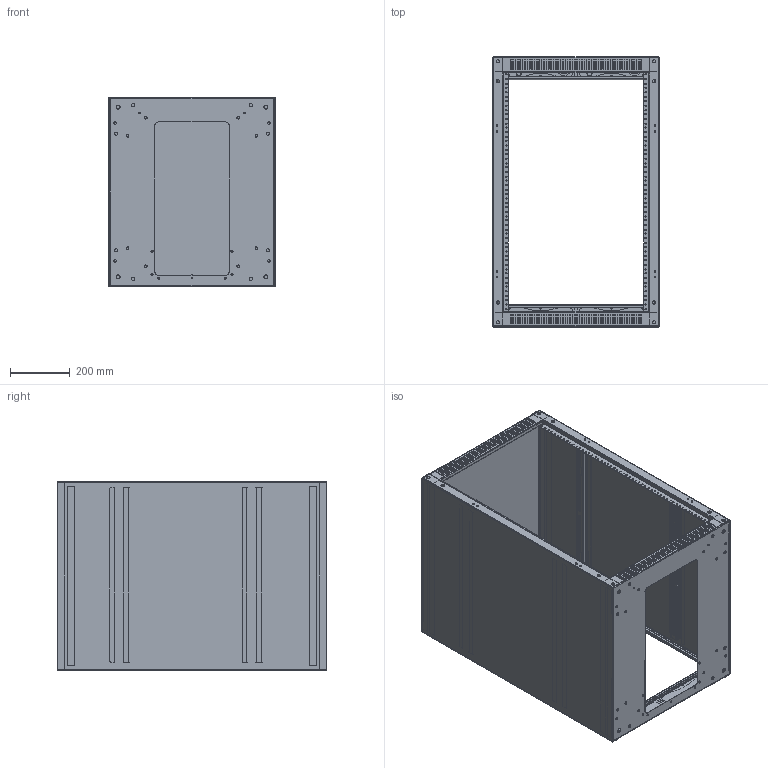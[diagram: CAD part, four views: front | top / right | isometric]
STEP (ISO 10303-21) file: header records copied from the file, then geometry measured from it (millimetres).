
FILE_DESCRIPTION((''),'2;1');
FILE_NAME('AERK-1825LRD_ASM','2016-07-29T',('rrenderos'),('Middle Atlantic Products'),'PRO/ENGINEER BY PARAMETRIC TECHNOLOGY CORPORATION, 2014310','PRO/ENGINEER BY PARAMETRIC TECHNOLOGY CORPORATION, 2014310','');
FILE_SCHEMA(('CONFIG_CONTROL_DESIGN'));
Length unit declared in the file: inch
Products named in the file (15): PERK25B_ASM; BE1825SL; BERRB25; BERK25LWB; PE1825SL_ASM; BE1825SR; PE1825SR_ASM; BERK25TF; PERK25TF_ASM; MERK-1825_ASM; BERK25B; PERR18; PKEKOPH; PKEKOPUHFH; AERK-1825LRD_ASM
Assembly tree (23 placements, depth 4):
  AERK-1825LRD_ASM
    MERK-1825_ASM
      PERK25B_ASM
      PE1825SL_ASM
        BE1825SL
        BERRB25  x2
        BERK25LWB  x2
      PE1825SR_ASM
        BE1825SR
        BERRB25  x2
        BERK25LWB  x2
      PERK25TF_ASM
        BERK25TF
    BERK25B
    PERR18  x2
    PKEKOPH  x2
    PKEKOPUHFH  x2
Bounding box: 558.8 x 904.75 x 635 mm (x, y, z)
Volume: 4267342.9 mm3; surface area: 5417922.7 mm2
Topology: 30 solids, 30 shells, 1976 faces, 5124 edges, 3200 vertices
Faces by surface type: plane 1016, cylinder 900, bspline 60
Entity records: 46347 total; most frequent: CARTESIAN_POINT 9330, DIRECTION 7812, ORIENTED_EDGE 7436, EDGE_CURVE 3718, AXIS2_PLACEMENT_3D 2761, VERTEX_POINT 2356, VECTOR 2290, LINE 2290
